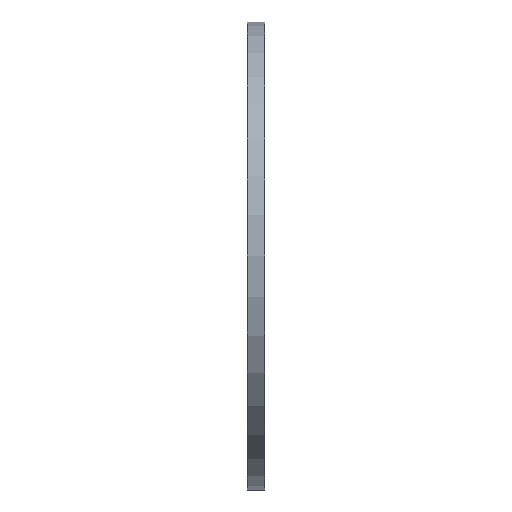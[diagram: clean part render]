
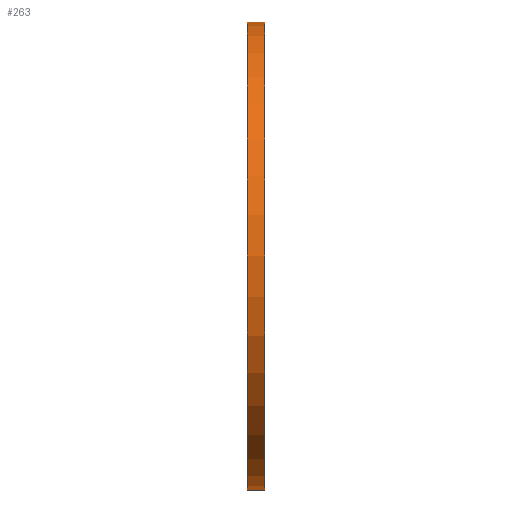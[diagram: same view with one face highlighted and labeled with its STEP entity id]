
A CAD part, left-side view. The second image highlights one B-rep face of the part: STEP entity #263.
In plain terms, the highlighted cylindrical face has radius 335 mm (diameter 670 mm), a partial arc.
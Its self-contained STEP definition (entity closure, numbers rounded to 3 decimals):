
#53 = AXIS2_PLACEMENT_3D ( 'NONE', #250, #396, #1481 ) ;
#89 = ORIENTED_EDGE ( 'NONE', *, *, #677, .F. ) ;
#114 = VECTOR ( 'NONE', #958, 1000. ) ;
#137 = CARTESIAN_POINT ( 'NONE',  ( 0., 25., -335. ) ) ;
#230 = DIRECTION ( 'NONE',  ( 0., 0., 1. ) ) ;
#232 = AXIS2_PLACEMENT_3D ( 'NONE', #1176, #496, #230 ) ;
#250 = CARTESIAN_POINT ( 'NONE',  ( 0., 25., 0. ) ) ;
#263 = ADVANCED_FACE ( 'NONE', ( #629 ), #1460, .T. ) ;
#293 = EDGE_LOOP ( 'NONE', ( #89, #364, #1653, #467 ) ) ;
#348 = EDGE_CURVE ( 'NONE', #1665, #453, #1703, .T. ) ;
#364 = ORIENTED_EDGE ( 'NONE', *, *, #437, .T. ) ;
#394 = EDGE_CURVE ( 'NONE', #1709, #453, #580, .T. ) ;
#396 = DIRECTION ( 'NONE',  ( 0., 1., 0. ) ) ;
#430 = CARTESIAN_POINT ( 'NONE',  ( 0., 38.545, -335. ) ) ;
#437 = EDGE_CURVE ( 'NONE', #1638, #1665, #488, .T. ) ;
#453 = VERTEX_POINT ( 'NONE', #670 ) ;
#467 = ORIENTED_EDGE ( 'NONE', *, *, #394, .F. ) ;
#471 = DIRECTION ( 'NONE',  ( 0., 1., 0. ) ) ;
#488 = CIRCLE ( 'NONE', #1379, 335. ) ;
#496 = DIRECTION ( 'NONE',  ( 0., 1., 0. ) ) ;
#580 = CIRCLE ( 'NONE', #53, 335. ) ;
#629 = FACE_OUTER_BOUND ( 'NONE', #293, .T. ) ;
#670 = CARTESIAN_POINT ( 'NONE',  ( 0., 25., 335. ) ) ;
#677 = EDGE_CURVE ( 'NONE', #1638, #1709, #843, .T. ) ;
#755 = VECTOR ( 'NONE', #471, 1000. ) ;
#831 = CARTESIAN_POINT ( 'NONE',  ( 0., 0., 0. ) ) ;
#843 = LINE ( 'NONE', #430, #755 ) ;
#947 = DIRECTION ( 'NONE',  ( 0., 1., 0. ) ) ;
#958 = DIRECTION ( 'NONE',  ( 0., 1., 0. ) ) ;
#1176 = CARTESIAN_POINT ( 'NONE',  ( 0., 38.545, 0. ) ) ;
#1356 = DIRECTION ( 'NONE',  ( 0., 0., 1. ) ) ;
#1379 = AXIS2_PLACEMENT_3D ( 'NONE', #831, #947, #1356 ) ;
#1434 = CARTESIAN_POINT ( 'NONE',  ( 0., 38.545, 335. ) ) ;
#1460 = CYLINDRICAL_SURFACE ( 'NONE', #232, 335. ) ;
#1481 = DIRECTION ( 'NONE',  ( 0., 0., 1. ) ) ;
#1607 = CARTESIAN_POINT ( 'NONE',  ( 0., 0., -335. ) ) ;
#1638 = VERTEX_POINT ( 'NONE', #1607 ) ;
#1653 = ORIENTED_EDGE ( 'NONE', *, *, #348, .T. ) ;
#1665 = VERTEX_POINT ( 'NONE', #1752 ) ;
#1703 = LINE ( 'NONE', #1434, #114 ) ;
#1709 = VERTEX_POINT ( 'NONE', #137 ) ;
#1752 = CARTESIAN_POINT ( 'NONE',  ( 0., 0., 335. ) ) ;
